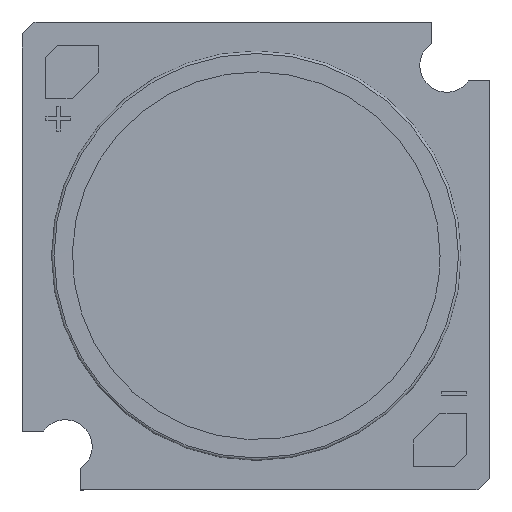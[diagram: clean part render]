
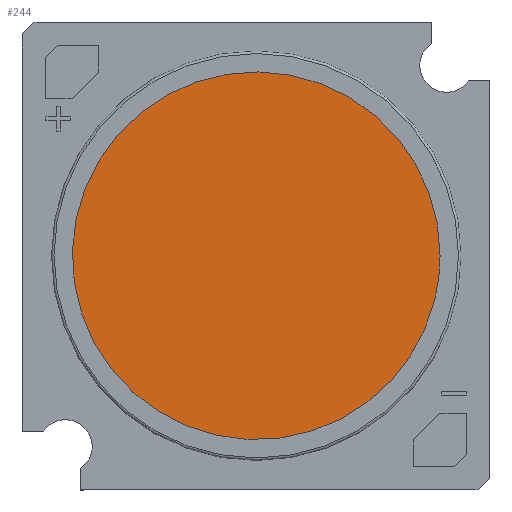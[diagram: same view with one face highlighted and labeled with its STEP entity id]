
A CAD part, top view. The second image highlights one B-rep face of the part: STEP entity #244.
In plain terms, the highlighted planar face has unit normal (0, 0, 1).
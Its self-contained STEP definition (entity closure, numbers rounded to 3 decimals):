
#114=FACE_OUTER_BOUND('',#409,.T.);
#244=ADVANCED_FACE('',(#114),#290,.T.);
#290=PLANE('',#952);
#409=EDGE_LOOP('',(#549));
#549=ORIENTED_EDGE('',*,*,#841,.T.);
#745=VERTEX_POINT('',#1500);
#841=EDGE_CURVE('',#745,#745,#914,.T.);
#914=B_SPLINE_CURVE_WITH_KNOTS('',3,(#1475,#1476,#1477,#1478,#1479,#1480,
#1481,#1482,#1483,#1484,#1485,#1486,#1487,#1488,#1489,#1490,#1491,#1492,
#1493,#1494,#1495,#1496,#1497,#1498,#1499),.UNSPECIFIED.,.T.,.F.,(1,3,3,
3,3,3,3,3,3,3,1),(-0.125,0.,0.125,0.25,0.375,0.5,0.625,0.75,0.875,1.,1.125),
 .UNSPECIFIED.);
#952=AXIS2_PLACEMENT_3D('',#1503,#1039,#1040);
#1039=DIRECTION('',(0.,0.,1.));
#1040=DIRECTION('',(1.,0.,0.));
#1475=CARTESIAN_POINT('',(11.,0.013,0.499));
#1476=CARTESIAN_POINT('',(11.,2.93,0.499));
#1477=CARTESIAN_POINT('',(9.84,5.729,0.499));
#1478=CARTESIAN_POINT('',(7.778,7.791,0.499));
#1479=CARTESIAN_POINT('',(5.716,9.854,0.499));
#1480=CARTESIAN_POINT('',(2.916,11.013,0.499));
#1481=CARTESIAN_POINT('',(0.,11.013,0.499));
#1482=CARTESIAN_POINT('',(-2.916,11.013,0.499));
#1483=CARTESIAN_POINT('',(-5.716,9.853,0.499));
#1484=CARTESIAN_POINT('',(-7.778,7.791,0.499));
#1485=CARTESIAN_POINT('',(-9.841,5.729,0.499));
#1486=CARTESIAN_POINT('',(-11.,2.93,0.499));
#1487=CARTESIAN_POINT('',(-11.,0.013,0.499));
#1488=CARTESIAN_POINT('',(-11.,-2.903,0.499));
#1489=CARTESIAN_POINT('',(-9.84,-5.703,0.499));
#1490=CARTESIAN_POINT('',(-7.778,-7.765,0.499));
#1491=CARTESIAN_POINT('',(-5.716,-9.827,0.499));
#1492=CARTESIAN_POINT('',(-2.916,-10.987,0.499));
#1493=CARTESIAN_POINT('',(0.,-10.987,0.499));
#1494=CARTESIAN_POINT('',(2.916,-10.987,0.499));
#1495=CARTESIAN_POINT('',(5.716,-9.827,0.499));
#1496=CARTESIAN_POINT('',(7.778,-7.765,0.499));
#1497=CARTESIAN_POINT('',(9.841,-5.703,0.499));
#1498=CARTESIAN_POINT('',(11.,-2.905,0.499));
#1499=CARTESIAN_POINT('',(11.,0.013,0.499));
#1500=CARTESIAN_POINT('',(11.,0.013,0.5));
#1503=CARTESIAN_POINT('',(0.,0.013,0.499));
